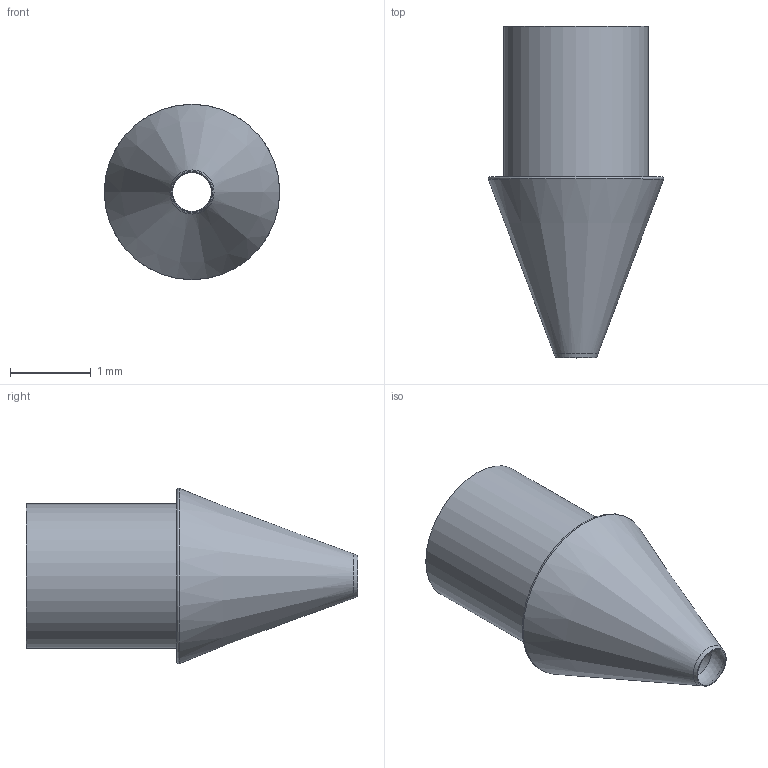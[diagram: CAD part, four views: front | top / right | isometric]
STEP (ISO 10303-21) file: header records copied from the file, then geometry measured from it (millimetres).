
FILE_DESCRIPTION(/* description */ ('STEP AP242 Edition 2','CAx-IF Rec.Pracs.---Representation and Presentation of Product Manufacturing Information (PMI)---4.0---2014-10-13','CAx-IF Rec.Pracs.---3D Tessellated Geometry---0.4---2014-09-14','2;1','CAx-IF Rec.Pracs.---User Defined Attributes---1.5---2016-08-15'),/* implementation_level */ '2;1');
FILE_NAME(/* name */ 'Final Build - pen tip',/* time_stamp */ '2026-08-31T23:26:25Z',/* author */ (''),/* organization */ (''),/* preprocessor_version */ 'ST-DEVELOPER v20',/* originating_system */ 'ONSHAPE BY PTC INC, 1.220',/* authorisation */ ' ');
FILE_SCHEMA (('AP242_MANAGED_MODEL_BASED_3D_ENGINEERING_MIM_LF { 1 0 10303 442 3 1 4 }'));
Length unit declared in the file: metre
Products named in the file (1): pen tip
Bounding box: 2.17 x 4.11 x 2.17 mm (x, y, z)
Volume: 2.7 mm3; surface area: 38.6 mm2
Topology: 1 solids, 1 shells, 10 faces, 18 edges, 11 vertices
Faces by surface type: plane 3, cylinder 2, cone 2, sphere 2, torus 1
Full cylindrical faces by diameter (mm): 1.633 x1, 1.792 x1
Entity records: 230 total; most frequent: DIRECTION 42, CARTESIAN_POINT 31, AXIS2_PLACEMENT_3D 21, ORIENTED_EDGE 20, EDGE_LOOP 20, FACE_BOUND 20, EDGE_CURVE 10, VERTEX_POINT 10
